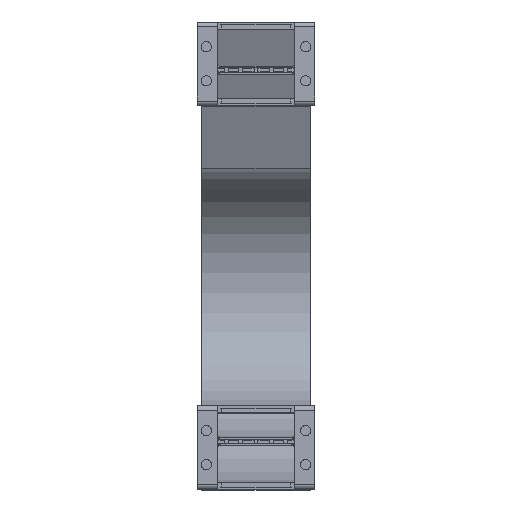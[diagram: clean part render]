
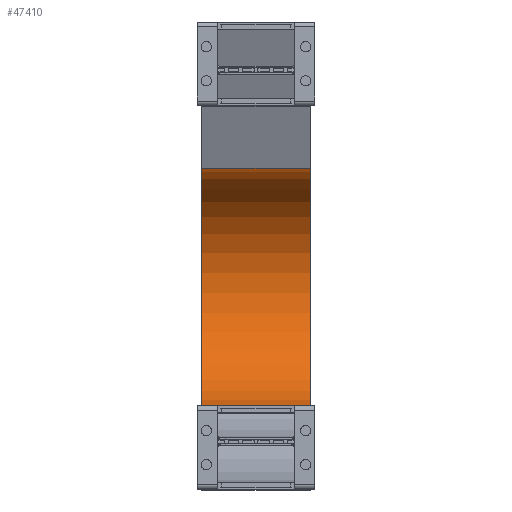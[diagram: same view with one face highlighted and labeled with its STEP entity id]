
A CAD part, top view. The second image highlights one B-rep face of the part: STEP entity #47410.
In plain terms, the highlighted cylindrical face has radius 77 mm (diameter 154 mm), a partial arc.
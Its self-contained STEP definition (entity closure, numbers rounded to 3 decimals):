
#46562=DIRECTION('',(-1.,0.,0.));
#46563=VECTOR('',#46562,70.);
#46564=CARTESIAN_POINT('',(35.,54.,-500.));
#46565=LINE('',#46564,#46563);
#46576=DIRECTION('',(-1.,0.,0.));
#46577=VECTOR('',#46576,70.);
#46578=CARTESIAN_POINT('',(35.,207.627,-507.567));
#46579=LINE('',#46578,#46577);
#46583=CARTESIAN_POINT('',(35.,131.,-500.));
#46584=DIRECTION('',(-1.,0.,0.));
#46585=DIRECTION('',(0.,0.995,-0.098));
#46586=AXIS2_PLACEMENT_3D('',#46583,#46584,#46585);
#46662=CARTESIAN_POINT('',(-35.,131.,-500.));
#46663=DIRECTION('',(-1.,0.,0.));
#46664=DIRECTION('',(0.,0.995,-0.098));
#46665=AXIS2_PLACEMENT_3D('',#46662,#46663,#46664);
#46784=CARTESIAN_POINT('',(35.,207.627,-507.567));
#46785=CARTESIAN_POINT('',(-35.,207.627,-507.567));
#46786=VERTEX_POINT('',#46784);
#46787=VERTEX_POINT('',#46785);
#46808=CARTESIAN_POINT('',(35.,54.,-500.));
#46809=CARTESIAN_POINT('',(-35.,54.,-500.));
#46810=VERTEX_POINT('',#46808);
#46811=VERTEX_POINT('',#46809);
#47396=CARTESIAN_POINT('',(1.,131.,-500.));
#47397=DIRECTION('',(-1.,0.,0.));
#47398=DIRECTION('',(0.,-0.995,0.098));
#47399=AXIS2_PLACEMENT_3D('',#47396,#47397,#47398);
#47400=CYLINDRICAL_SURFACE('',#47399,77.);
#47402=ORIENTED_EDGE('',*,*,#47401,.F.);
#47404=ORIENTED_EDGE('',*,*,#47403,.T.);
#47405=ORIENTED_EDGE('',*,*,#47379,.T.);
#47407=ORIENTED_EDGE('',*,*,#47406,.F.);
#47408=EDGE_LOOP('',(#47402,#47404,#47405,#47407));
#47409=FACE_OUTER_BOUND('',#47408,.F.);
#46587=CIRCLE('',#46586,77.);
#46666=CIRCLE('',#46665,77.);
#47379=EDGE_CURVE('',#46810,#46811,#46565,.T.);
#47401=EDGE_CURVE('',#46786,#46787,#46579,.T.);
#47403=EDGE_CURVE('',#46786,#46810,#46587,.T.);
#47406=EDGE_CURVE('',#46787,#46811,#46666,.T.);
#47410=ADVANCED_FACE('',(#47409),#47400,.F.);
